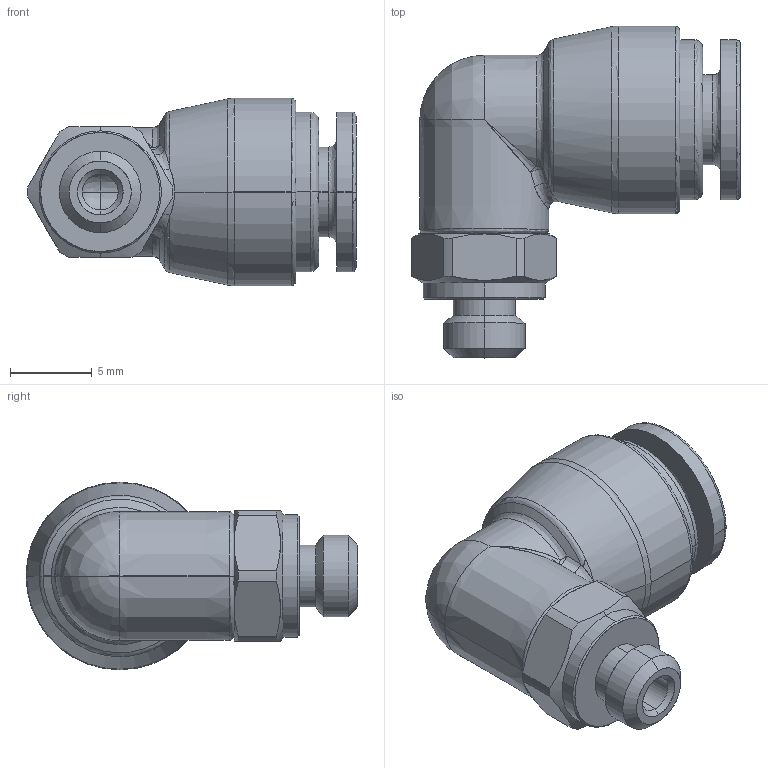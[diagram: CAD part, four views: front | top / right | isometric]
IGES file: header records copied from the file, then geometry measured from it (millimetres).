
Start section: SolidWorks IGES file using analytic representation for surfaces
Global section: file name: K:\Disegni Esecutivi\SERIE 53000\53000 Assiemi\53116\Iges\5311600002A.IGS; native system: SolidWorks 2020; preprocessor: SolidWorks 2020; author: cad06; date: 230524.082924; units: millimetre
Bounding box: 20.15 x 20.35 x 11.5 mm (x, y, z)
Surface area: 1346.3 mm2 (no closed solid volume)
Topology: 0 solids, 0 shells, 143 faces, 1326 edges, 1318 vertices
Faces by surface type: bspline 79, revolution 64
